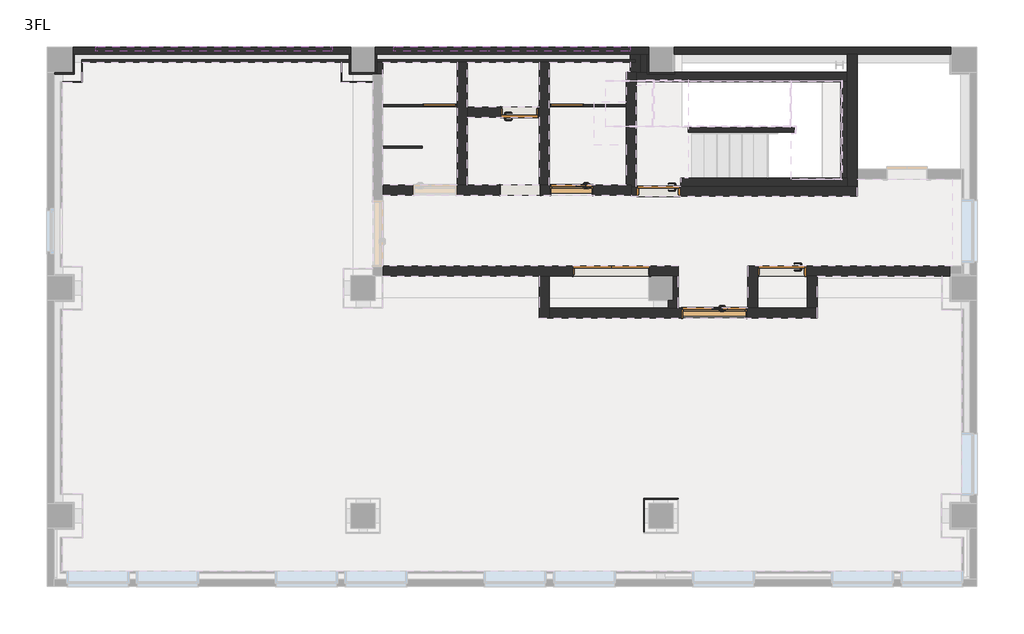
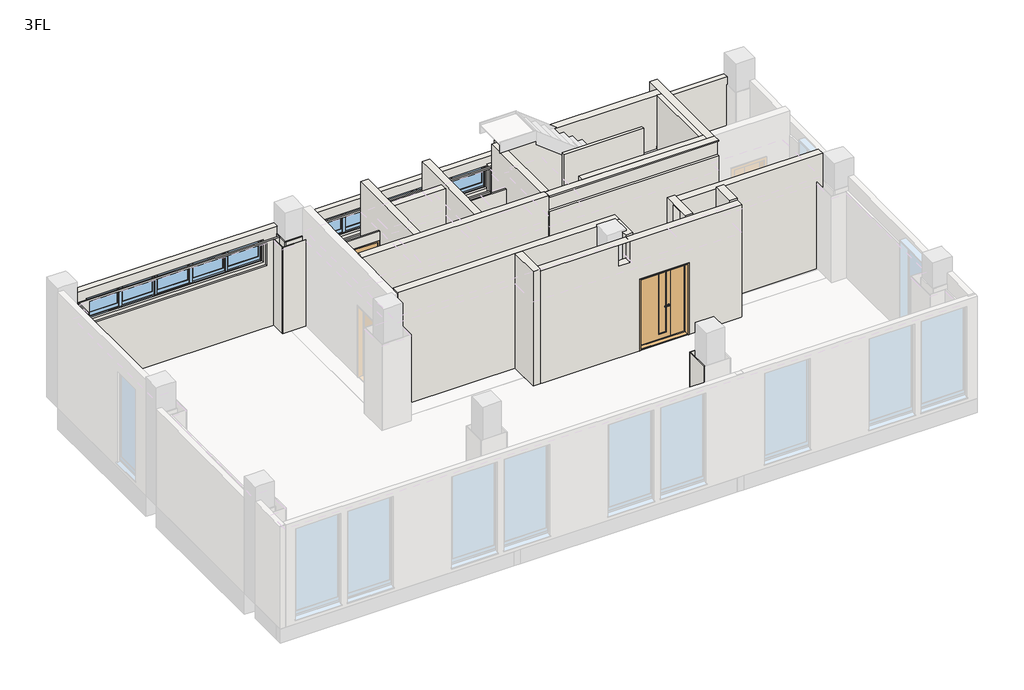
# One storey, part 2 of 4: 40 walls, 9 doors, 2 windows.
"""IFC4 building model written with IfcOpenShell, lengths in millimetres."""

from ifc_helpers import new_model, si_unit, frame, origin, place, context, project, spatial, polyline, outline, extrude, faceted_brep, transform, mapped, element, save
from components import door_e94faea5, door_4b055558, door_d7f882ca, door_5dd87f21, door_bff3f04c, door_a8025d8c, d600x2000_af21914f, d600x2000_ad2d4883, sf1_800x2000_fe7aab56, window_ed3df4e0

model = new_model("IFC4")

# Units and contexts
model_context = context("Model", 3, world=origin())
ifc_project = project(units=[si_unit("LENGTHUNIT", "METRE", prefix="MILLI")], contexts=[model_context])

# Site, building, storey
site = spatial("IfcSite", under=ifc_project)
building = spatial("IfcBuilding", under=site)
storey = spatial("IfcBuildingStorey", under=building, Name="3FL", Elevation=6700.0)

# Doors
placement = place(None, origin())
door_shape = door_e94faea5(model_context)
element("IfcDoor", 1, ObjectType="A1 片開 フラッシュ_A1枠 : SD11_H2000W800", at=placement, inside=storey, context=model_context, shape_type="MappedRepresentation", body=[
    mapped(door_shape, transform((12040.0, 6540.0, 6700.0), x_axis=(1.0, 0.0, 0.0), y_axis=(0.0, 1.0, 0.0), z_axis=(0.0, 0.0, 1.0))),
])
door_2_shape = door_4b055558(model_context)
element("IfcDoor", 2, ObjectType="A1 片開 フラッシュ_A1枠 : SD10_H2000W700", at=placement, inside=storey, context=model_context, shape_type="MappedRepresentation", body=[
    mapped(door_2_shape, transform((9240.0, 8140.0, 6700.0), x_axis=(-1.0, 0.0, 0.0), y_axis=(0.0, -1.0, 0.0), z_axis=(0.0, 0.0, 1.0))),
])
door_3_shape = door_d7f882ca(model_context)
element("IfcDoor", 3, ObjectType="A1 片開 フラッシュ_A1枠 : SD13_H2000W900", at=placement, inside=storey, context=model_context, shape_type="MappedRepresentation", body=[
    mapped(door_3_shape, transform((14525.0, 4930.0, 6700.0), x_axis=(1.0, 0.0, 0.0), y_axis=(0.0, 1.0, 0.0), z_axis=(0.0, 0.0, 1.0))),
])
door_4_shape = door_5dd87f21(model_context)
element("IfcDoor", 4, ObjectType="B1 両開 フラッシュ_A1枠 : SD12-H2000W1500 2", at=placement, inside=storey, context=model_context, shape_type="MappedRepresentation", body=[
    mapped(door_4_shape, transform((11090.0, 4930.0, 6700.0), x_axis=(1.0, 0.0, 0.0), y_axis=(0.0, 1.0, 0.0), z_axis=(0.0, 0.0, 1.0))),
])
door_5_shape = door_bff3f04c(model_context)
element("IfcDoor", 5, ObjectType="140_片開扉_スリットガラリ付 : SD9_H2000W800", at=placement, inside=storey, context=model_context, shape_type="MappedRepresentation", body=[
    mapped(door_5_shape, transform((10290.0, 6565.5, 6700.0), x_axis=(-1.0, 0.0, 0.0), y_axis=(0.0, -1.0, 0.0), z_axis=(0.0, 0.0, 1.0))),
])
door_6_shape = door_a8025d8c(model_context)
element("IfcDoor", 6, ObjectType="C_親子扉_スリット窓付_パネル : SD8_W1250XH2000", at=placement, inside=storey, context=model_context, shape_type="MappedRepresentation", body=[
    mapped(door_6_shape, transform((13165.0, 4090.0, 6700.0), x_axis=(-1.0, 0.0, 0.0), y_axis=(0.0, -1.0, 0.0), z_axis=(0.0, 0.0, 1.0))),
])
d600x2000_shape = d600x2000_af21914f(model_context)
element("IfcDoor", 7, ObjectType="T1 点検口 : D600X2000", at=placement, inside=storey, context=model_context, shape_type="MappedRepresentation", body=[
    mapped(d600x2000_shape, transform((7632.5, 8270.0, 6700.0), x_axis=(-1.0, 0.0, 0.0), y_axis=(0.0, -1.0, 0.0), z_axis=(0.0, 0.0, 1.0))),
])
d600x2000_2_shape = d600x2000_ad2d4883(model_context)
element("IfcDoor", 8, ObjectType="T1 点検口 : D600X2000", at=placement, inside=storey, context=model_context, shape_type="MappedRepresentation", body=[
    mapped(d600x2000_2_shape, transform((10197.5, 8270.1, 6700.0), x_axis=(1.0, 0.0, 0.0), y_axis=(0.0, 1.0, 0.0), z_axis=(0.0, 0.0, 1.0))),
])
sf1_800x2000_shape = sf1_800x2000_fe7aab56(model_context)
element("IfcDoor", 9, ObjectType="三方枠 : SF1-800X2000", at=placement, inside=storey, context=model_context, shape_type="MappedRepresentation", body=[
    mapped(sf1_800x2000_shape, transform((9257.5, 6565.5, 6700.0), x_axis=(-1.0, 0.0, 0.0), y_axis=(0.0, -1.0, 0.0), z_axis=(0.0, 0.0, 1.0))),
])

# Walls
element("IfcWall", 10, ObjectType="•_RC120+押出法ポリスチレンフォーム1種 t25", at=placement, inside=storey, context=model_context, shape_type="Brep", body=[
    faceted_brep([(5840.0, 9450.0, 9360.0), (5840.0, 9450.0, 6550.0), (250.0, 9450.0, 6550.0), (250.0, 9450.0, 9360.0), (5470.0, 9450.0, 8430.0), (5470.0, 9450.0, 9100.0), (710.0, 9450.0, 9100.0), (710.0, 9450.0, 8430.0), (5840.0, 9305.0, 6550.0), (5840.0, 9305.0, 9150.0), (5840.0, 9305.0, 9360.0), (250.0, 9305.0, 9360.0), (250.0, 9305.0, 9150.0), (250.0, 9305.0, 6550.0), (275.0, 9305.0, 6550.0), (5814.9999427, 9305.0, 6550.0), (5470.0, 9305.0, 9100.0), (5470.0, 9305.0, 8465.0), (710.0, 9305.0, 8465.0), (710.0, 9305.0, 9100.0), (5470.0, 9370.0, 8430.0), (5470.0, 9370.0, 8465.0), (710.0, 9370.0, 8465.0), (710.0, 9370.0, 8430.0)], [[[0, 1, 2, 3], [4, 5, 6, 7]], [[8, 9, 10, 11, 12, 13, 14, 15], [16, 17, 18, 19]], [[1, 8, 15, 14, 13, 2]], [[10, 0, 3, 11]], [[10, 9, 8, 1, 0]], [[4, 20, 21, 17, 16, 5]], [[22, 23, 7, 6, 19, 18]], [[21, 22, 18, 17]], [[5, 16, 19, 6]], [[20, 4, 7, 23]], [[21, 20, 23, 22]], [[13, 12, 11, 3, 2]]]),
    faceted_brep([(17930.0, 9450.0, 9360.0), (17930.0, 9450.0, 6550.0), (12360.0, 9450.0, 6550.0), (12360.0, 9450.0, 9360.0), (17930.0, 9305.0, 6550.0), (17930.0, 9305.0, 9150.0), (17930.0, 9305.0, 9360.0), (12360.0, 9305.0, 9360.0), (12360.0, 9305.0, 6550.0), (12364.9999035, 9305.0, 6550.0), (15840.0, 9305.0, 6550.0), (16040.0, 9305.0, 6550.0), (17905.0000284, 9305.0, 6550.0)], [[[0, 1, 2, 3]], [[4, 5, 6, 7, 8, 9, 10, 11, 12]], [[1, 4, 12, 11, 10, 9, 8, 2]], [[6, 0, 3, 7]], [[6, 5, 4, 1, 0]], [[3, 2, 8, 7]]]),
    faceted_brep([(6340.0, 9450.0, 6550.0), (6340.0, 9450.0, 9360.0), (11840.0, 9450.0, 9360.0), (11840.0, 9450.0, 6550.0), (11470.0, 9450.0, 8430.0), (11470.0, 9450.0, 9100.0), (6710.0, 9450.0, 9100.0), (6710.0, 9450.0, 8430.0), (6340.0, 9305.0, 9360.0), (6340.0, 9305.0, 9150.0), (6340.0, 9305.0, 6550.0), (6364.9999033, 9305.0, 6550.0), (11470.0, 9305.0, 6550.0), (11669.9999426, 9305.0, 6550.0), (11814.9999426, 9305.0, 6550.0), (11840.0, 9305.0, 6550.0), (11840.0, 9305.0, 9150.0), (11840.0, 9305.0, 9360.0), (11470.0, 9305.0, 9100.0), (11470.0, 9305.0, 8465.0), (6710.0, 9305.0, 8465.0), (6710.0, 9305.0, 9100.0), (11470.0, 9370.0, 8430.0), (11470.0, 9370.0, 8465.0), (6710.0, 9370.0, 8465.0), (6710.0, 9370.0, 8430.0)], [[[0, 1, 2, 3], [4, 5, 6, 7]], [[8, 9, 10, 11, 12, 13, 14, 15, 16, 17], [18, 19, 20, 21]], [[10, 0, 3, 15, 14, 13, 12, 11]], [[1, 8, 17, 2]], [[3, 2, 17, 16, 15]], [[10, 9, 8, 1, 0]], [[22, 23, 19, 18, 5, 4]], [[24, 25, 7, 6, 21, 20]], [[23, 24, 20, 19]], [[5, 18, 21, 6]], [[22, 4, 7, 25]], [[23, 22, 25, 24]]]),
])
element("IfcWall", 11, ObjectType="•RC30+12.5", at=placement, inside=storey, context=model_context, shape_type="Brep", body=[
    faceted_brep([(426.0, 9147.500003, 6550.0), (438.5, 9147.500003, 6550.0), (5651.5, 9147.500003, 6550.0), (5664.0, 9147.500003, 6550.0), (5814.9999427, 9147.500003, 6550.0), (5814.9999427, 9147.500003, 9150.0), (5664.0, 9147.500003, 9150.0), (5651.5, 9147.500003, 9150.0), (438.5, 9147.500003, 9150.0), (426.0, 9147.500003, 9150.0), (710.0, 9147.500003, 9100.0), (5470.0, 9147.500003, 9100.0), (5470.0, 9147.500003, 8465.0), (710.0, 9147.500003, 8465.0), (5814.9999427, 9190.000003, 6550.0), (426.0, 9190.000003, 6550.0), (426.0, 9190.000003, 9150.0), (5814.9999427, 9190.000003, 9150.0), (5470.0, 9190.000003, 9100.0), (710.0, 9190.000003, 9100.0), (710.0, 9190.000003, 8465.0), (5470.0, 9190.000003, 8465.0)], [[[0, 1, 2, 3, 4, 5, 6, 7, 8, 9], [10, 11, 12, 13]], [[14, 15, 16, 17], [18, 19, 20, 21]], [[4, 3, 2, 1, 0, 15, 14]], [[9, 8, 7, 6, 5, 17, 16]], [[0, 9, 16, 15]], [[10, 19, 18, 11]], [[12, 21, 20, 13]], [[19, 10, 13, 20]], [[11, 18, 21, 12]], [[5, 4, 14, 17]]]),
])
element("IfcWall", 12, ObjectType="•RC30+12.5", at=placement, inside=storey, context=model_context, shape_type="Brep", body=[
    faceted_brep([(6365.0, 9147.500003, 6550.0), (6490.0, 9147.500003, 6550.0), (7990.0, 9147.500003, 6550.0), (8190.0, 9147.500003, 6550.0), (9640.0, 9147.500003, 6550.0), (9840.0, 9147.500003, 6550.0), (11570.0, 9147.500003, 6550.0), (11570.0, 9147.500003, 9150.0), (6490.0, 9147.500003, 9150.0), (6365.0, 9147.500003, 9150.0), (6710.0, 9147.500003, 9100.0), (11470.0, 9147.500003, 9100.0), (11470.0, 9147.500003, 8465.0), (6710.0, 9147.500003, 8465.0), (11570.0, 9190.000003, 6550.0), (6365.0, 9190.000003, 6550.0), (6365.0, 9190.000003, 9150.0), (11570.0, 9190.000003, 9150.0), (11470.0, 9190.000003, 9100.0), (6710.0, 9190.000003, 9100.0), (6710.0, 9190.000003, 8465.0), (11470.0, 9190.000003, 8465.0)], [[[0, 1, 2, 3, 4, 5, 6, 7, 8, 9], [10, 11, 12, 13]], [[14, 15, 16, 17], [18, 19, 20, 21]], [[6, 5, 4, 3, 2, 1, 0, 15, 14]], [[7, 6, 14, 17]], [[9, 8, 7, 17, 16]], [[0, 9, 16, 15]], [[10, 19, 18, 11]], [[12, 21, 20, 13]], [[19, 10, 13, 20]], [[11, 18, 21, 12]]]),
])
element("IfcWall", 13, ObjectType="•t=25mm", at=placement, inside=storey, context=model_context, shape_type="Brep", body=[
    faceted_brep([(-125.0, 8905.000056, 6550.0), (275.0, 8905.000056, 6550.0), (275.0, 8905.000056, 9150.0), (-125.0, 8905.000056, 9150.0), (-125.0, 8930.000056, 6550.0), (-125.0, 8930.000056, 9150.0), (250.0, 8930.000056, 9150.0), (275.0, 8930.000056, 9150.0), (275.0, 8930.000056, 6550.0), (250.0, 8930.000056, 6550.0)], [[[0, 1, 2, 3]], [[4, 5, 6, 7, 8, 9]], [[1, 0, 4, 9, 8]], [[3, 2, 7, 6, 5]], [[0, 3, 5, 4]], [[2, 1, 8, 7]]]),
])
element("IfcWall", 14, ObjectType="•t=25mm", at=placement, inside=storey, context=model_context, shape_type="SweptSolid", body=[
    extrude(outline(polyline([(275.0, 9305.0), (275.0, 8930.000056), (250.0, 8930.000056), (250.0, 9305.0), (275.0, 9305.0)])), frame((0.0, 0.0, 6550.0), z_axis=(0.0, 0.0, 1.0), x_axis=(1.0, 0.0, 0.0)), (0.0, 0.0, 1.0), 2600.0),
])
element("IfcWall", 15, ObjectType="•t=25mm", at=placement, inside=storey, context=model_context, shape_type="Brep", body=[
    faceted_brep([(5814.9999427, 9305.0, 6550.0), (5814.9999427, 9190.000003, 6550.0), (5814.9999427, 9147.500003, 6550.0), (5814.9999427, 8905.0000823, 6550.0), (5814.9999427, 8905.0000823, 9150.0), (5814.9999427, 9147.500003, 9150.0), (5814.9999427, 9190.000003, 9150.0), (5814.9999427, 9305.0, 9150.0), (5839.9999427, 9305.0, 6550.0), (5839.9999427, 9305.0, 9150.0), (5839.9999427, 8930.0000823, 9150.0), (5839.9999427, 8905.0000823, 9150.0), (5839.9999427, 8905.0000823, 6550.0), (5839.9999427, 8930.0000823, 6550.0)], [[[0, 1, 2, 3, 4, 5, 6, 7]], [[8, 9, 10, 11, 12, 13]], [[3, 2, 1, 0, 8, 13, 12]], [[7, 6, 5, 4, 11, 10, 9]], [[4, 3, 12, 11]], [[0, 7, 9, 8]]]),
])
element("IfcWall", 16, ObjectType="•t=25mm", at=placement, inside=storey, context=model_context, shape_type="Brep", body=[
    faceted_brep([(6364.9999033, 8905.0000823, 9150.0), (5839.9999427, 8905.0000823, 9150.0), (5839.9999427, 8905.0000823, 6550.0), (5890.0, 8905.0000823, 6550.0), (5890.0, 8905.0000823, 6690.0), (6290.0, 8905.0000823, 6690.0), (6364.9999033, 8905.0000823, 6690.0), (5839.9999427, 8930.0000823, 9150.0), (6339.9999033, 8930.0000823, 9150.0), (6364.9999033, 8930.0000823, 9150.0), (6364.9999033, 8930.0000823, 6690.0), (6340.0, 8930.0000823, 6690.0), (5890.0, 8930.0000823, 6690.0), (5890.0, 8930.0000823, 6550.0), (5839.9999427, 8930.0000823, 6550.0)], [[[0, 1, 2, 3, 4, 5, 6]], [[7, 8, 9, 10, 11, 12, 13, 14]], [[2, 14, 13, 3]], [[1, 0, 9, 8, 7]], [[2, 1, 7, 14]], [[9, 0, 6, 10]], [[4, 12, 11, 10, 6, 5]], [[12, 4, 3, 13]]]),
])
element("IfcWall", 17, ObjectType="•t=25mm", at=placement, inside=storey, context=model_context, shape_type="SweptSolid", body=[
    extrude(outline(polyline([(8930.0000823, 9150.0), (9305.0, 9150.0), (9305.0, 6550.0), (9130.0, 6550.0), (9130.0, 6690.0), (8930.0000823, 6690.0), (8930.0000823, 9150.0)])), frame((6339.9999033, 0.0, 0.0), z_axis=(1.0, 0.0, 0.0), x_axis=(0.0, 1.0, 0.0)), (0.0, 0.0, 1.0), 25.0),
])
element("IfcWall", 18, ObjectType="•t=25mm", at=placement, inside=storey, context=model_context, shape_type="Brep", body=[
    faceted_brep([(11814.9999426, 8905.0000823, 9150.0), (11814.9999426, 9305.0, 9150.0), (11814.9999426, 9305.0, 6550.0), (11814.9999426, 9130.0, 6550.0), (11814.9999426, 9130.0, 6690.0), (11814.9999426, 8905.0000823, 6690.0), (11839.9999426, 9305.0, 9150.0), (11839.9999426, 8930.0000823, 9150.0), (11839.9999426, 8905.0000823, 9150.0), (11839.9999426, 8905.0000823, 6690.0), (11839.9999426, 8930.0, 6690.0), (11839.9999426, 9130.0, 6690.0), (11839.9999426, 9130.0, 6550.0), (11839.9999426, 9305.0, 6550.0)], [[[0, 1, 2, 3, 4, 5]], [[6, 7, 8, 9, 10, 11, 12, 13]], [[2, 13, 12, 3]], [[1, 0, 8, 7, 6]], [[2, 1, 6, 13]], [[8, 0, 5, 9]], [[4, 11, 10, 9, 5]], [[11, 4, 3, 12]]]),
])
element("IfcWall", 19, ObjectType="•t=25mm", at=placement, inside=storey, context=model_context, shape_type="Brep", body=[
    faceted_brep([(12364.9999035, 8905.0000823, 9150.0), (11839.9999426, 8905.0000823, 9150.0), (11839.9999426, 8905.0000823, 6690.0), (12364.9999035, 8905.0000823, 6690.0), (11839.9999426, 8930.0000823, 9150.0), (12339.9999035, 8930.0000823, 9150.0), (12364.9999035, 8930.0000823, 9150.0), (12364.9999035, 8930.0000823, 6690.0), (12340.0, 8930.0000823, 6690.0), (11839.9999426, 8930.0000823, 6690.0)], [[[0, 1, 2, 3]], [[4, 5, 6, 7, 8, 9]], [[1, 0, 6, 5, 4]], [[1, 4, 9, 2]], [[6, 0, 3, 7]], [[3, 2, 9, 8, 7]]]),
])
element("IfcWall", 20, ObjectType="•PB12.5", at=placement, inside=storey, context=model_context, shape_type="Brep", body=[
    faceted_brep([(32.4999974, 8741.5, 6550.0), (438.5, 8741.5, 6550.0), (438.5, 8741.5, 9150.0), (32.4999974, 8741.5, 9150.0), (32.4999974, 8754.0, 6550.0), (32.4999974, 8754.0, 9150.0), (426.0, 8754.0, 9150.0), (438.5, 8754.0, 9150.0), (438.5, 8754.0, 6550.0), (426.0, 8754.0, 6550.0)], [[[0, 1, 2, 3]], [[4, 5, 6, 7, 8, 9]], [[1, 0, 4, 9, 8]], [[3, 2, 7, 6, 5]], [[0, 3, 5, 4]], [[2, 1, 8, 7]]]),
])
element("IfcWall", 21, ObjectType="•PB12.5", at=placement, inside=storey, context=model_context, shape_type="SweptSolid", body=[
    extrude(outline(polyline([(438.5, 9147.500003), (438.5, 8754.0), (426.0, 8754.0), (426.0, 9147.500003), (438.5, 9147.500003)])), frame((0.0, 0.0, 6550.0), z_axis=(0.0, 0.0, 1.0), x_axis=(1.0, 0.0, 0.0)), (0.0, 0.0, 1.0), 2600.0),
])
element("IfcWall", 22, ObjectType="•PB12.5", at=placement, inside=storey, context=model_context, shape_type="Brep", body=[
    faceted_brep([(5651.5, 9147.500003, 6550.0), (5651.5, 8741.5, 6550.0), (5651.5, 8741.5, 9150.0), (5651.5, 9147.500003, 9150.0), (5664.0, 9147.500003, 6550.0), (5664.0, 9147.500003, 9150.0), (5664.0, 8754.0, 9150.0), (5664.0, 8741.5, 9150.0), (5664.0, 8741.5, 6550.0), (5664.0, 8754.0, 6550.0)], [[[0, 1, 2, 3]], [[4, 5, 6, 7, 8, 9]], [[1, 0, 4, 9, 8]], [[3, 2, 7, 6, 5]], [[0, 3, 5, 4]], [[2, 1, 8, 7]]]),
])
element("IfcWall", 23, ObjectType="•PB12.5", at=placement, inside=storey, context=model_context, shape_type="SweptSolid", body=[
    extrude(outline(polyline([(9150.0, 6290.0), (9150.0, 5664.0), (6550.0, 5664.0), (6550.0, 5890.0), (6690.0, 5890.0), (6690.0, 6290.0), (9150.0, 6290.0)])), frame((0.0, 8741.5, 0.0), z_axis=(0.0, 1.0, 0.0), x_axis=(0.0, 0.0, 1.0)), (0.0, 0.0, 1.0), 12.5),
])
element("IfcWall", 24, ObjectType="•RC125", at=placement, inside=storey, context=model_context, shape_type="SweptSolid", body=[
    extrude(outline(polyline([(8905.0000823, 9150.0), (9147.500003, 9150.0), (9147.500003, 6550.0), (9130.0, 6550.0), (9130.0, 6690.0), (8905.0000823, 6690.0), (8905.0000823, 9150.0)])), frame((6365.0, 0.0, 0.0), z_axis=(1.0, 0.0, 0.0), x_axis=(0.0, 1.0, 0.0)), (0.0, 0.0, 1.0), 125.0),
])
element("IfcWall", 25, ObjectType="•RC200", at=placement, inside=storey, context=model_context, shape_type="Brep", body=[
    faceted_brep([(12440.0, 4830.0, 9960.0), (12340.0, 4830.0, 9960.0), (12340.0, 4830.0, 6690.0), (12440.0, 4830.0, 6690.0), (11840.0, 4830.0, 9960.0), (9840.0, 4830.0, 9960.0), (9640.0, 4830.0, 9960.0), (6490.0, 4830.0, 9960.0), (6490.0, 4830.0, 9912.648092), (6490.0, 4830.0, 6690.0), (9640.0, 4830.0, 6690.0), (9840.0, 4830.0, 6690.0), (11840.0, 4830.0, 6690.0), (11840.0, 4830.0, 6700.0), (10312.5, 4830.0, 6700.0), (10312.5, 4830.0, 8727.5), (11840.0, 4830.0, 8727.5), (6490.0, 5030.0, 9960.0), (12440.0, 5030.0, 9960.0), (12440.0, 5030.0, 6690.0), (6490.0, 5030.0, 6690.0), (11867.5, 5030.0, 6700.0), (11867.5, 5030.0, 8727.5), (10312.5, 5030.0, 8727.5), (10312.5, 5030.0, 6700.0), (11840.0, 4840.0, 9960.0), (12340.0, 4840.0, 9960.0), (6490.0, 5022.5, 6690.0), (11840.0, 4840.0, 8727.5), (11867.5, 4840.0, 8727.5), (11867.5, 4840.0, 6700.0), (11840.0, 4840.0, 6700.0), (11840.0, 4840.0, 6690.0), (12340.0, 4840.0, 6690.0)], [[[0, 1, 2, 3]], [[4, 5, 6, 7, 8, 9, 10, 11, 12, 13, 14, 15, 16]], [[17, 18, 19, 20], [21, 22, 23, 24]], [[18, 17, 7, 6, 5, 4, 25, 26, 1, 0]], [[18, 0, 3, 19]], [[7, 17, 20, 27, 9, 8]], [[26, 25, 28, 29, 30, 31, 32, 33]], [[25, 4, 16, 28]], [[31, 13, 12, 32]], [[1, 26, 33, 2]], [[22, 21, 30, 29]], [[21, 24, 14, 13, 31, 30]], [[15, 14, 24, 23]], [[23, 22, 29, 28, 16, 15]], [[3, 2, 33, 32, 12, 11, 10, 9, 27, 20, 19]]]),
])
element("IfcWall", 26, ObjectType="•RC200", at=placement, inside=storey, context=model_context, shape_type="Brep", body=[
    faceted_brep([(12240.0, 4190.0, 6550.0), (12240.0, 4190.0, 9304.9256074), (12240.0, 4190.0, 9904.9570182), (12240.0, 4190.0, 9960.0), (12240.0, 4340.0, 9960.0), (12240.0, 4340.0, 6550.0), (12440.0, 4830.0, 9960.0), (12440.0, 4190.0, 9960.0), (12440.0, 4190.0, 6550.0), (12440.0, 4390.0, 6550.0), (12440.0, 4390.0, 6690.0), (12440.0, 4830.0, 6690.0), (12340.0, 4340.0, 6550.0), (12340.0, 4390.0, 6550.0), (12340.0, 4830.0, 9960.0), (12340.0, 4340.0, 9960.0), (12340.0, 4830.0, 6690.0), (12340.0, 4390.0, 6690.0)], [[[0, 1, 2, 3, 4, 5]], [[6, 7, 8, 9, 10, 11]], [[8, 0, 5, 12, 13, 9]], [[7, 6, 14, 15, 4, 3]], [[14, 6, 11, 16]], [[3, 2, 1, 0, 8, 7]], [[5, 4, 15, 12]], [[15, 14, 16, 17, 13, 12]], [[10, 17, 16, 11]], [[17, 10, 9, 13]]]),
])
element("IfcWall", 27, ObjectType="•RC200", at=placement, inside=storey, context=model_context, shape_type="Brep", body=[
    faceted_brep([(9640.0, 3990.0, 9960.0), (9640.0, 4830.0, 9960.0), (9640.0, 4830.0, 6690.0), (9640.0, 4390.0, 6690.0), (9640.0, 4390.0, 6550.0), (9640.0, 3990.0, 6550.0), (9840.0, 4830.0, 9960.0), (9840.0, 3990.0, 9960.0), (9840.0, 3990.0, 9904.6507202), (9840.0, 3990.0, 6550.0), (9840.0, 4190.0, 6550.0), (9840.0, 4390.0, 6550.0), (9840.0, 4390.0, 6690.0), (9840.0, 4830.0, 6690.0)], [[[0, 1, 2, 3, 4, 5]], [[6, 7, 8, 9, 10, 11, 12, 13]], [[9, 5, 4, 11, 10]], [[1, 0, 7, 6]], [[1, 6, 13, 2]], [[0, 5, 9, 8, 7]], [[12, 3, 2, 13]], [[3, 12, 11, 4]]]),
])
element("IfcWall", 28, ObjectType="•RC200", at=placement, inside=storey, context=model_context, shape_type="Brep", body=[
    faceted_brep([(9840.0, 3990.0, 6550.0), (15240.0, 3990.0, 6550.0), (15240.0, 3990.0, 9904.1445574), (9840.0, 3990.0, 9904.1445574), (11940.0, 3990.0, 9302.8790958), (11940.0, 3990.0, 9902.9105065), (12240.0, 3990.0, 9902.9105065), (12240.0, 3990.0, 9302.8790958), (13830.0, 3990.0, 8740.0), (13830.0, 3990.0, 6685.0), (12500.0, 3990.0, 6685.0), (12500.0, 3990.0, 8740.0), (15240.0, 4190.0, 6550.0), (15040.0, 4190.0, 6550.0), (14040.0, 4190.0, 6550.0), (13840.0, 4190.0, 6550.0), (12440.0, 4190.0, 6550.0), (12240.0, 4190.0, 6550.0), (9840.0, 4190.0, 6550.0), (9840.0, 4190.0, 9906.1692085), (15240.0, 4190.0, 9906.1692085), (11940.0, 4190.0, 9904.9570182), (11940.0, 4190.0, 9304.9256074), (12240.0, 4190.0, 9304.9256074), (12240.0, 4190.0, 9904.9570182), (13830.0, 4190.0, 6685.0), (13830.0, 4190.0, 8740.0), (12500.0, 4190.0, 8740.0), (12500.0, 4190.0, 6685.0)], [[[0, 1, 2, 3], [4, 5, 6, 7], [8, 9, 10, 11]], [[12, 13, 14, 15, 16, 17, 18, 19, 20], [21, 22, 23, 24], [25, 26, 27, 28]], [[1, 0, 18, 17, 16, 15, 14, 13, 12]], [[18, 0, 3, 19]], [[1, 12, 20, 2]], [[4, 22, 21, 5]], [[5, 21, 24, 6]], [[6, 24, 23, 7]], [[22, 4, 7, 23]], [[9, 8, 26, 25]], [[10, 9, 25, 28]], [[11, 10, 28, 27]], [[8, 11, 27, 26]], [[3, 2, 20, 19]]]),
])
element("IfcWall", 29, ObjectType="•RC200", at=placement, inside=storey, context=model_context, shape_type="SweptSolid", body=[
    extrude(outline(polyline([(4190.0, 9960.0), (4830.0, 9960.0), (4830.0, 6690.0), (4390.0, 6690.0), (4390.0, 6550.0), (4190.0, 6550.0), (4190.0, 9960.0)])), frame((15040.0, 0.0, 0.0), z_axis=(1.0, 0.0, 0.0), x_axis=(0.0, 1.0, 0.0)), (0.0, 0.0, 1.0), 200.0),
])
element("IfcWall", 30, ObjectType="•RC200", at=placement, inside=storey, context=model_context, shape_type="Brep", body=[
    faceted_brep([(14040.0, 5030.0, 9960.0), (14040.0, 4190.0, 9960.0), (14040.0, 4190.0, 6550.0), (14040.0, 4390.0, 6550.0), (14040.0, 4390.0, 6690.0), (14040.0, 4830.0, 6690.0), (14040.0, 5030.0, 6690.0), (14040.0, 5030.0, 9914.6727431), (14040.0, 4740.0, 9920.0), (14040.0, 4740.0, 9320.0), (14040.0, 4440.0, 9320.0), (14040.0, 4440.0, 9920.0), (13840.0, 4190.0, 9960.0), (13840.0, 5030.0, 9960.0), (13840.0, 5030.0, 6690.0), (13840.0, 4390.0, 6690.0), (13840.0, 4390.0, 6550.0), (13840.0, 4190.0, 6550.0), (13840.0, 4740.0, 9320.0), (13840.0, 4740.0, 9920.0), (13840.0, 4440.0, 9920.0), (13840.0, 4440.0, 9320.0)], [[[0, 1, 2, 3, 4, 5, 6, 7], [8, 9, 10, 11]], [[12, 13, 14, 15, 16, 17], [18, 19, 20, 21]], [[2, 17, 16, 3]], [[1, 0, 13, 12]], [[2, 1, 12, 17]], [[13, 0, 7, 6, 14]], [[18, 9, 8, 19]], [[19, 8, 11, 20]], [[20, 11, 10, 21]], [[9, 18, 21, 10]], [[4, 15, 14, 6, 5]], [[15, 4, 3, 16]]]),
])
element("IfcWall", 31, ObjectType="•RC200", at=placement, inside=storey, context=model_context, shape_type="Brep", body=[
    faceted_brep([(17905.0, 5030.0, 6690.0), (14040.0, 5030.0, 6690.0), (14040.0, 5030.0, 9914.6727431), (17905.0, 5030.0, 9914.6727431), (15002.5, 5030.0, 6700.0), (15002.5, 5030.0, 8727.5), (14047.5, 5030.0, 8727.5), (14047.5, 5030.0, 6700.0), (14040.0, 4830.0, 6690.0), (15040.0, 4830.0, 6690.0), (15240.0, 4830.0, 6690.0), (17905.0, 4830.0, 6690.0), (17905.0, 4830.0, 9912.648092), (14040.0, 4830.0, 9912.648092), (15002.5, 4830.0, 8727.5), (15002.5, 4830.0, 6700.0), (14047.5, 4830.0, 6700.0), (14047.5, 4830.0, 8727.5)], [[[0, 1, 2, 3], [4, 5, 6, 7]], [[8, 9, 10, 11, 12, 13], [14, 15, 16, 17]], [[11, 0, 3, 12]], [[1, 8, 13, 2]], [[15, 14, 5, 4]], [[16, 15, 4, 7]], [[17, 16, 7, 6]], [[14, 17, 6, 5]], [[1, 0, 11, 10, 9, 8]], [[3, 2, 13, 12]]]),
])
element("IfcWall", 32, ObjectType="•RC200", at=placement, inside=storey, context=model_context, shape_type="Brep", body=[
    faceted_brep([(11490.0, 6465.5, 9960.0), (6490.0, 6465.5, 9960.0), (6490.0, 6465.5, 6690.0), (7100.0, 6465.5, 6690.0), (7100.0, 6465.5, 8740.0), (7980.0, 6465.5, 8740.0), (7980.0, 6465.5, 6690.0), (9850.0, 6465.5, 6690.0), (9850.0, 6465.5, 8740.0), (10730.0, 6465.5, 8740.0), (10730.0, 6465.5, 6690.0), (11490.0, 6465.5, 6690.0), (8842.5, 6465.5, 6700.0), (8842.5, 6465.5, 8725.0), (9672.5, 6465.5, 8725.0), (9672.5, 6465.5, 6700.0), (6490.0, 6665.5, 9960.0), (11390.0, 6665.5, 9960.0), (11490.0, 6665.5, 9960.0), (11490.0, 6665.5, 6690.0), (11390.0, 6665.5, 6690.0), (10730.0, 6665.5, 6690.0), (10730.0, 6665.5, 8740.0), (9850.0, 6665.5, 8740.0), (9850.0, 6665.5, 6690.0), (9840.0, 6665.5, 6690.0), (9640.0, 6665.5, 6690.0), (8190.0, 6665.5, 6690.0), (7990.0, 6665.5, 6690.0), (7980.0, 6665.5, 6690.0), (7980.0, 6665.5, 8740.0), (7100.0, 6665.5, 8740.0), (7100.0, 6665.5, 6690.0), (6490.0, 6665.5, 6690.0), (8842.5, 6665.5, 8725.0), (8842.5, 6665.5, 6700.0), (9672.5, 6665.5, 6700.0), (9672.5, 6665.5, 8725.0), (11490.0, 6640.0, 9960.0), (11490.0, 6640.0, 6690.0)], [[[0, 1, 2, 3, 4, 5, 6, 7, 8, 9, 10, 11], [12, 13, 14, 15]], [[16, 17, 18, 19, 20, 21, 22, 23, 24, 25, 26, 27, 28, 29, 30, 31, 32, 33], [34, 35, 36, 37]], [[18, 38, 0, 11, 39, 19]], [[1, 0, 38, 18, 17, 16]], [[1, 16, 33, 2]], [[9, 22, 21, 10]], [[23, 8, 7, 24]], [[9, 8, 23, 22]], [[31, 4, 3, 32]], [[5, 30, 29, 6]], [[31, 30, 5, 4]], [[35, 34, 13, 12]], [[36, 35, 12, 15]], [[37, 36, 15, 14]], [[34, 37, 14, 13]], [[11, 10, 21, 20, 19, 39]], [[3, 2, 33, 32]], [[7, 6, 29, 28, 27, 26, 25, 24]]]),
])
element("IfcWall", 33, ObjectType="•RC200", at=placement, inside=storey, context=model_context, shape_type="Brep", body=[
    faceted_brep([(11490.0, 6640.0, 9960.0), (11590.0, 6640.0, 9960.0), (15840.0, 6640.0, 9960.0), (16040.0, 6640.0, 9960.0), (16040.0, 6640.0, 6690.0), (16040.0, 6640.0, 6550.0), (15840.0, 6640.0, 6550.0), (12512.5, 6640.0, 6550.0), (12512.5, 6640.0, 6690.0), (12490.0, 6640.0, 6690.0), (11590.0, 6640.0, 6690.0), (11490.0, 6640.0, 6690.0), (12467.5, 6640.0, 6700.0), (12467.5, 6640.0, 8727.5), (11612.5, 6640.0, 8727.5), (11612.5, 6640.0, 6700.0), (16040.0, 6440.0, 9960.0), (11490.0, 6440.0, 9960.0), (11490.0, 6440.0, 9927.671851), (16040.0, 6440.0, 9927.6741044), (16040.0, 6440.0, 6550.0), (16040.0, 6440.0, 6690.0), (16040.0, 6440.0, 6700.0), (16040.0, 6440.0, 9527.6741044), (11490.0, 6440.0, 9527.671851), (11490.0, 6440.0, 6700.0), (11490.0, 6440.0, 6690.0), (12512.5, 6440.0, 6690.0), (12512.5, 6440.0, 6550.0), (12467.5, 6440.0, 8727.5), (12467.5, 6440.0, 6700.0), (11612.5, 6440.0, 6700.0), (11612.5, 6440.0, 8727.5), (11490.0, 6465.5, 9960.0), (11490.0, 6465.5, 6690.0), (11490.0, 6499.8586652, 9527.671851), (11490.0, 6499.8586652, 9927.671851), (16040.0, 6500.078881, 9927.6741044), (16040.0, 6500.078881, 9527.6741044)], [[[0, 1, 2, 3, 4, 5, 6, 7, 8, 9, 10, 11], [12, 13, 14, 15]], [[16, 17, 18, 19]], [[20, 21, 22, 23, 24, 25, 26, 27, 28], [29, 30, 31, 32]], [[5, 20, 28, 7, 6]], [[17, 33, 0, 11, 34, 26, 25, 24, 35, 36, 18]], [[3, 2, 1, 0, 33, 17, 16]], [[3, 16, 19, 37, 38, 23, 22, 21, 20, 5, 4]], [[30, 29, 13, 12]], [[31, 30, 12, 15]], [[32, 31, 15, 14]], [[29, 32, 14, 13]], [[8, 27, 26, 34, 11, 10, 9]], [[27, 8, 7, 28]], [[35, 38, 37, 36]], [[36, 37, 19, 18]], [[38, 35, 24, 23]]]),
])
element("IfcWall", 34, ObjectType="•RC200", at=placement, inside=storey, context=model_context, shape_type="Brep", body=[
    faceted_brep([(7990.0, 9147.500003, 9956.3552474), (7990.0, 9147.500003, 6550.0), (7990.0, 9130.0, 6550.0), (7990.0, 9130.0, 6690.0), (7990.0, 6665.5, 6690.0), (7990.0, 6665.5, 9931.2293274), (8190.0, 9147.500003, 6550.0), (8190.0, 9147.500003, 9956.3552474), (8190.0, 6665.5, 9931.2293274), (8190.0, 6665.5, 6690.0), (8190.0, 8040.0, 6690.0), (8190.0, 8240.0, 6690.0), (8190.0, 9130.0, 6690.0), (8190.0, 9130.0, 6550.0)], [[[0, 1, 2, 3, 4, 5]], [[6, 7, 8, 9, 10, 11, 12, 13]], [[1, 6, 13, 2]], [[8, 5, 4, 9]], [[6, 1, 0, 7]], [[3, 12, 11, 10, 9, 4]], [[12, 3, 2, 13]], [[0, 5, 8, 7]]]),
])
element("IfcWall", 35, ObjectType="•RC200", at=placement, inside=storey, context=model_context, shape_type="Brep", body=[
    faceted_brep([(9640.0, 9147.500003, 9956.3552474), (9640.0, 9147.500003, 6550.0), (9640.0, 9130.0, 6550.0), (9640.0, 9130.0, 6690.0), (9640.0, 8240.0, 6690.0), (9640.0, 8040.0, 6690.0), (9640.0, 6665.5, 6690.0), (9640.0, 6665.5, 9931.2293274), (9840.0, 9147.500003, 6550.0), (9840.0, 9147.500003, 9956.3552474), (9840.0, 6665.5, 9931.2293274), (9840.0, 6665.5, 6690.0), (9840.0, 9130.0, 6690.0), (9840.0, 9130.0, 6550.0)], [[[0, 1, 2, 3, 4, 5, 6, 7]], [[8, 9, 10, 11, 12, 13]], [[1, 8, 13, 2]], [[10, 7, 6, 11]], [[8, 1, 0, 9]], [[3, 12, 11, 6, 5, 4]], [[12, 3, 2, 13]], [[0, 7, 10, 9]]]),
])
element("IfcWall", 36, ObjectType="•RC200", at=placement, inside=storey, context=model_context, shape_type="Brep", body=[
    faceted_brep([(11590.0, 8947.5, 9960.0), (11590.0, 8747.5, 9960.0), (11590.0, 6640.0, 9960.0), (11590.0, 6640.0, 6690.0), (11590.0, 8747.5, 6690.0), (11590.0, 8947.5, 6690.0), (11390.0, 6665.5, 9960.0), (11390.0, 8947.5, 9960.0), (11390.0, 8947.5, 6690.0), (11390.0, 6665.5, 6690.0), (11490.0, 6665.5, 9960.0), (11490.0, 6640.0, 9960.0), (11490.0, 6640.0, 6690.0), (11490.0, 6665.5, 6690.0)], [[[0, 1, 2, 3, 4, 5]], [[6, 7, 8, 9]], [[7, 0, 5, 8]], [[2, 1, 0, 7, 6, 10, 11]], [[2, 11, 12, 3]], [[11, 10, 13, 12]], [[10, 6, 9, 13]], [[5, 4, 3, 12, 13, 9, 8]]]),
])
element("IfcWall", 37, ObjectType="•RC200", at=placement, inside=storey, context=model_context, shape_type="Brep", body=[
    faceted_brep([(15840.0, 8747.5, 9960.0), (11590.0, 8747.5, 9960.0), (11590.0, 8747.5, 6690.0), (12512.5, 8747.5, 6690.0), (12512.5, 8747.5, 6550.0), (15840.0, 8747.5, 6550.0), (11590.0, 8947.5, 9960.0), (11669.9999426, 8947.5, 9960.0), (11814.9999426, 8947.5, 9960.0), (15840.0, 8947.5, 9960.0), (15840.0, 8947.5, 6550.0), (12512.5, 8947.5, 6550.0), (12512.5, 8947.5, 6690.0), (12364.9999035, 8947.5, 6690.0), (12364.9999035, 8947.5, 6550.0), (12360.0, 8947.5, 6550.0), (12360.0, 8947.5, 9955.0), (11840.0, 8947.5, 9955.0), (11840.0, 8947.5, 6690.0), (11590.0, 8947.5, 6690.0), (12360.0, 8930.0, 6550.0), (12364.9999035, 8930.0, 6550.0), (11840.0, 8930.0, 9955.0), (12360.0, 8930.0, 9955.0), (12360.0, 8930.0, 6690.0), (11840.0, 8930.0, 6690.0), (12364.9999035, 8930.0, 6690.0)], [[[0, 1, 2, 3, 4, 5]], [[6, 7, 8, 9, 10, 11, 12, 13, 14, 15, 16, 17, 18, 19]], [[20, 15, 14, 21]], [[10, 5, 4, 11]], [[1, 0, 9, 8, 7, 6]], [[22, 23, 24, 25]], [[17, 22, 25, 18]], [[0, 5, 10, 9]], [[1, 6, 19, 2]], [[24, 26, 13, 12, 3, 2, 19, 18, 25]], [[3, 12, 11, 4]], [[26, 24, 20, 21]], [[13, 26, 21, 14]], [[16, 15, 20, 24, 23]], [[23, 22, 17, 16]]]),
])
element("IfcWall", 38, ObjectType="•RC200", at=placement, inside=storey, context=model_context, shape_type="Brep", body=[
    faceted_brep([(15840.0, 9305.0, 6550.0), (15840.0, 8947.5, 6550.0), (15840.0, 8747.5, 6550.0), (15840.0, 6804.5, 6550.0), (15840.0, 6640.0, 6550.0), (15840.0, 6640.0, 9960.0), (15840.0, 6804.5, 9960.0), (15840.0, 8747.5, 9960.0), (15840.0, 8947.5, 9960.0), (15840.0, 9305.0, 9960.0), (16040.0, 9305.0, 6550.0), (16040.0, 9305.0, 9960.0), (16040.0, 6640.0, 9960.0), (16040.0, 6640.0, 6550.0)], [[[0, 1, 2, 3, 4, 5, 6, 7, 8, 9]], [[10, 11, 12, 13]], [[4, 3, 2, 1, 0, 10, 13]], [[9, 8, 7, 6, 5, 12, 11]], [[5, 4, 13, 12]], [[0, 9, 11, 10]]]),
])
element("IfcWall", 39, ObjectType="•RC164.5", at=placement, inside=storey, context=model_context, shape_type="SweptSolid", body=[
    extrude(outline(polyline([(15840.0, 6640.0), (12490.0, 6640.0), (12490.0, 6804.5), (15840.0, 6804.5), (15840.0, 6640.0)])), frame((0.0, 0.0, 6550.0), z_axis=(0.0, 0.0, 1.0), x_axis=(1.0, 0.0, 0.0)), (0.0, 0.0, 1.0), 3410.0),
])
element("IfcWall", 40, ObjectType="•RC130", at=placement, inside=storey, context=model_context, shape_type="SweptSolid", body=[
    extrude(outline(polyline([(15710.0, 6804.5), (15710.0, 8747.5), (15840.0, 8747.5), (15840.0, 6804.5), (15710.0, 6804.5)])), frame((0.0, 0.0, 6550.0), z_axis=(0.0, 0.0, 1.0), x_axis=(1.0, 0.0, 0.0)), (0.0, 0.0, 1.0), 3410.0),
])
element("IfcWall", 41, ObjectType="•RC200", at=placement, inside=storey, context=model_context, shape_type="Brep", body=[
    faceted_brep([(11470.0, 8947.5, 9150.0), (11470.0, 9305.0, 9150.0), (11470.0, 9305.0, 9100.0), (11470.0, 9305.0, 8465.0), (11470.0, 9305.0, 6550.0), (11470.0, 9130.0, 6550.0), (11470.0, 9130.0, 6690.0), (11470.0, 8947.5, 6690.0), (11670.0, 9305.0, 9150.0), (11670.0, 8947.5, 9150.0), (11670.0, 8947.5, 6690.0), (11670.0, 9130.0, 6690.0), (11670.0, 9130.0, 6550.0), (11670.0, 9305.0, 6550.0), (11590.0, 8947.5, 6690.0)], [[[0, 1, 2, 3, 4, 5, 6, 7]], [[8, 9, 10, 11, 12, 13]], [[4, 13, 12, 5]], [[9, 0, 7, 14, 10]], [[1, 0, 9, 8]], [[4, 3, 2, 1, 8, 13]], [[6, 11, 10, 14, 7]], [[11, 6, 5, 12]]]),
])
element("IfcWall", 42, ObjectType="•PB12.5", at=placement, inside=storey, context=model_context, shape_type="Brep", body=[
    faceted_brep([(11741.5, 336.0, 6550.0), (11754.0, 336.0, 6550.0), (12426.0, 336.0, 6550.0), (12438.5, 336.0, 6550.0), (12438.5, 336.0, 9150.0), (12426.0, 336.0, 9150.0), (11754.0, 336.0, 9150.0), (11741.5, 336.0, 9150.0), (11741.5, 348.5, 6550.0), (11741.5, 348.5, 9150.0), (12438.5, 348.5, 9150.0), (12438.5, 348.5, 6550.0)], [[[0, 1, 2, 3, 4, 5, 6, 7]], [[8, 9, 10, 11]], [[3, 2, 1, 0, 8, 11]], [[7, 6, 5, 4, 10, 9]], [[4, 3, 11, 10]], [[0, 7, 9, 8]]]),
])
element("IfcWall", 43, ObjectType="•PB12.5", at=placement, inside=storey, context=model_context, shape_type="SweptSolid", body=[
    extrude(outline(polyline([(11754.0, 336.0), (11754.0, -336.0), (11741.5, -336.0), (11741.5, 336.0), (11754.0, 336.0)])), frame((0.0, 0.0, 6550.0), z_axis=(0.0, 0.0, 1.0), x_axis=(1.0, 0.0, 0.0)), (0.0, 0.0, 1.0), 2600.0),
])
element("IfcWall", 44, ObjectType="•RC200", at=placement, inside=storey, context=model_context, shape_type="Brep", body=[
    faceted_brep([(9640.0, 8040.0, 9850.0), (8190.0, 8040.0, 9850.0), (8190.0, 8040.0, 6700.0), (8190.0, 8040.0, 6690.0), (9640.0, 8040.0, 6690.0), (9640.0, 8040.0, 6700.0), (8862.5, 8040.0, 6700.0), (8862.5, 8040.0, 8727.5), (9617.5, 8040.0, 8727.5), (9617.5, 8040.0, 6700.0), (8190.0, 8240.0, 9850.0), (9640.0, 8240.0, 9850.0), (9640.0, 8240.0, 6700.0), (9640.0, 8240.0, 6690.0), (8190.0, 8240.0, 6690.0), (8190.0, 8240.0, 6700.0), (8862.5, 8240.0, 8727.5), (8862.5, 8240.0, 6700.0), (9617.5, 8240.0, 6700.0), (9617.5, 8240.0, 8727.5)], [[[0, 1, 2, 3, 4, 5], [6, 7, 8, 9]], [[10, 11, 12, 13, 14, 15], [16, 17, 18, 19]], [[1, 0, 11, 10]], [[1, 10, 15, 14, 3, 2]], [[11, 0, 5, 4, 13, 12]], [[16, 7, 6, 17]], [[17, 6, 9, 18]], [[7, 16, 19, 8]], [[8, 19, 18, 9]], [[4, 3, 14, 13]]]),
])
element("IfcWall", 45, ObjectType="•RC90", at=placement, inside=storey, context=model_context, shape_type="SweptSolid", body=[
    extrude(outline(polyline([(12642.5000144, 7820.0000124), (14770.0000002, 7820.0000077), (14770.0, 7730.0000077), (12642.5000142, 7730.0000124), (12642.5000144, 7820.0000124)])), frame((0.0, 0.0, 6550.0), z_axis=(0.0, 0.0, 1.0), x_axis=(1.0, 0.0, 0.0)), (0.0, 0.0, 1.0), 3410.0),
])
element("IfcWall", 46, ObjectType="•RC145", at=placement, inside=storey, context=model_context, shape_type="SweptSolid", body=[
    extrude(outline(polyline([(8947.5, 9960.0), (9305.0, 9960.0), (9305.0, 6550.0), (9130.0, 6550.0), (9130.0, 6690.0), (8947.5, 6690.0), (8947.5, 9960.0)])), frame((11669.9999426, 0.0, 0.0), z_axis=(1.0, 0.0, 0.0), x_axis=(0.0, 1.0, 0.0)), (0.0, 0.0, 1.0), 145.0),
])
element("IfcWall", 47, ObjectType="•t=40mm", at=placement, inside=storey, context=model_context, shape_type="SweptSolid", body=[
    extrude(outline(polyline([(6700.0, 6490.0), (6700.0, 7990.0), (9100.0, 7990.0), (9100.0, 6490.0), (6700.0, 6490.0)]), holes=[polyline([(8840.0, 7972.5), (6760.0, 7972.5), (6760.0, 7292.5), (8840.0, 7292.5), (8840.0, 7972.5)])]), frame((0.0, 8250.0, 0.0), z_axis=(0.0, 1.0, 0.0), x_axis=(0.0, 0.0, 1.0)), (0.0, 0.0, 1.0), 40.0),
])
element("IfcWall", 48, ObjectType="•t=40mm", at=placement, inside=storey, context=model_context, shape_type="SweptSolid", body=[
    extrude(outline(polyline([(6700.0, 11390.0), (9100.0, 11390.0), (9100.0, 9840.0), (6700.0, 9840.0), (6700.0, 11390.0)]), holes=[polyline([(6760.0, 9857.5), (8840.0, 9857.5), (8840.0, 10537.5), (6760.0, 10537.5), (6760.0, 9857.5)])]), frame((0.0, 8250.1, 0.0), z_axis=(0.0, 1.0, 0.0), x_axis=(0.0, 0.0, 1.0)), (0.0, 0.0, 1.0), 40.0),
])
element("IfcWall", 49, ObjectType="•t=40mm", at=placement, inside=storey, context=model_context, shape_type="SweptSolid", body=[
    extrude(outline(polyline([(7285.0, 7410.0), (6490.0, 7410.0), (6490.0, 7450.0), (7285.0, 7450.0), (7285.0, 7410.0)])), frame((0.0, 0.0, 6700.0), z_axis=(0.0, 0.0, 1.0), x_axis=(1.0, 0.0, 0.0)), (0.0, 0.0, 1.0), 2400.0),
])

# Windows
window_shape = window_ed3df4e0(model_context)
element("IfcWindow", 50, ObjectType="B_嵌殺窓1段5列 : AW4_H560W4680", at=placement, inside=storey, context=model_context, shape_type="MappedRepresentation", body=[
    mapped(window_shape, transform((3090.0, 9377.5, 7600.0), x_axis=(1.0, 0.0, 0.0), y_axis=(0.0, 1.0, 0.0), z_axis=(0.0, 0.0, 1.0))),
])
element("IfcWindow", 51, ObjectType="B_嵌殺窓1段5列 : AW4_H560W4680", at=placement, inside=storey, context=model_context, shape_type="MappedRepresentation", body=[
    mapped(window_shape, transform((9090.0, 9377.5, 7600.0), x_axis=(1.0, 0.0, 0.0), y_axis=(0.0, 1.0, 0.0), z_axis=(0.0, 0.0, 1.0))),
])

save(model, "model.ifc")
